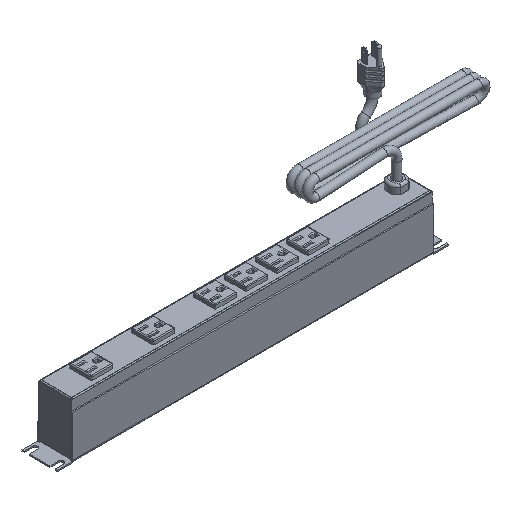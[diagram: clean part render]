
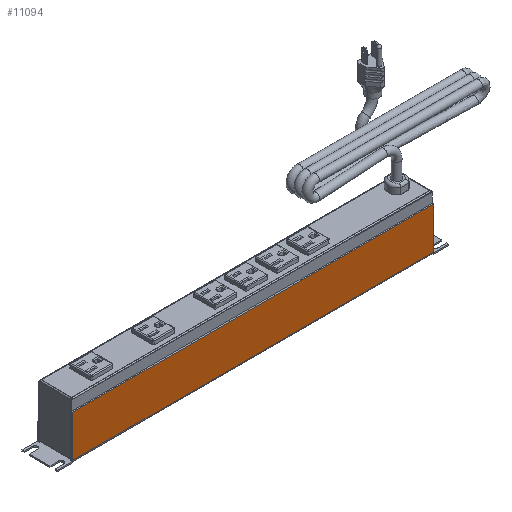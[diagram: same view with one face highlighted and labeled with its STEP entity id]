
A CAD part, isometric view. The second image highlights one B-rep face of the part: STEP entity #11094.
In plain terms, the highlighted planar face has unit normal (0, -1, 0).
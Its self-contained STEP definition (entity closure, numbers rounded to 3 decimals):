
#1210=FACE_OUTER_BOUND('',#1836,.T.);
#1836=EDGE_LOOP('',(#7591,#7592,#7593,#7594));
#2594=LINE('',#15872,#3673);
#2599=LINE('',#15885,#3678);
#2606=LINE('',#15901,#3685);
#2608=LINE('',#15904,#3687);
#3673=VECTOR('',#12970,10.);
#3678=VECTOR('',#12981,1.699);
#3685=VECTOR('',#13000,10.);
#3687=VECTOR('',#13004,10.);
#4743=VERTEX_POINT('',#15870);
#4744=VERTEX_POINT('',#15871);
#4749=VERTEX_POINT('',#15883);
#4752=VERTEX_POINT('',#15900);
#5852=EDGE_CURVE('',#4743,#4744,#2594,.T.);
#5859=EDGE_CURVE('',#4749,#4744,#2599,.T.);
#5868=EDGE_CURVE('',#4743,#4752,#2606,.T.);
#5870=EDGE_CURVE('',#4752,#4749,#2608,.T.);
#7591=ORIENTED_EDGE('',*,*,#5852,.T.);
#7592=ORIENTED_EDGE('',*,*,#5859,.F.);
#7593=ORIENTED_EDGE('',*,*,#5870,.F.);
#7594=ORIENTED_EDGE('',*,*,#5868,.F.);
#10719=PLANE('',#11934);
#11094=ADVANCED_FACE('',(#1210),#10719,.F.);
#11934=AXIS2_PLACEMENT_3D('',#15905,#13005,#13006);
#12970=DIRECTION('',(1.,0.,0.));
#12981=DIRECTION('',(0.,0.,-1.));
#13000=DIRECTION('',(0.,0.,1.));
#13004=DIRECTION('',(1.,0.,0.));
#13005=DIRECTION('center_axis',(0.,1.,0.));
#13006=DIRECTION('ref_axis',(1.,0.,0.));
#15870=CARTESIAN_POINT('',(-222.25,-21.819,2.588));
#15871=CARTESIAN_POINT('',(222.25,-21.819,2.588));
#15872=CARTESIAN_POINT('',(0.,-21.819,2.588));
#15883=CARTESIAN_POINT('',(222.25,-21.819,53.975));
#15885=CARTESIAN_POINT('',(222.25,-21.819,-2.748));
#15900=CARTESIAN_POINT('',(-222.25,-21.819,53.975));
#15901=CARTESIAN_POINT('',(-222.25,-21.819,2.588));
#15904=CARTESIAN_POINT('',(-222.25,-21.819,53.975));
#15905=CARTESIAN_POINT('Origin',(0.,-21.819,26.947));
